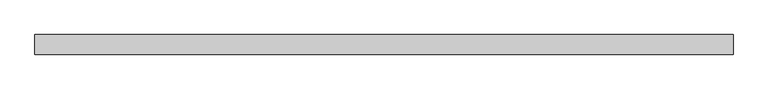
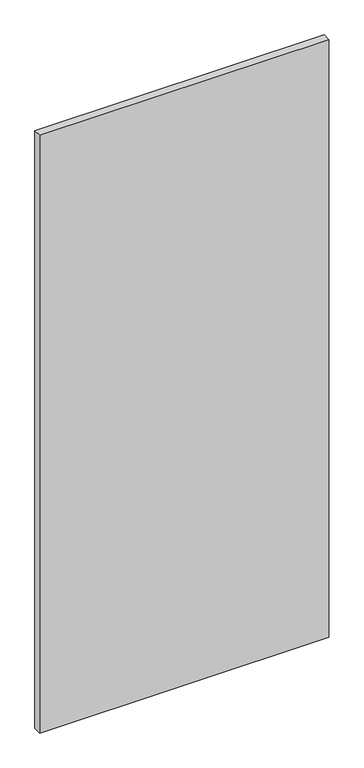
"""IFC4 building model written with IfcOpenShell, lengths in millimetres: plate geometry, Vitré."""

from ifc_helpers import new_model, si_unit, origin, origin_with_axes, place, context, project, spatial, polyline, outline, extrude, source, transform, mapped, element, save


def plate_04ed81d1(model_context):
    return source(origin(), model_context, "Body", "SweptSolid", [
        extrude(outline(polyline([(-696.3124842, -20.0), (-696.3124842, 20.0), (696.3124842, 20.0), (696.3124842, -20.0), (-696.3124842, -20.0)])), origin_with_axes(), (0.0, 0.0, 1.0), 3042.625),
    ])


if __name__ == "__main__":
    model = new_model("IFC4")
    model_context = context("Model", 3, world=origin())
    ifc_project = project(units=[si_unit("LENGTHUNIT", "METRE", prefix="MILLI")], contexts=[model_context])
    site = spatial("IfcSite", under=ifc_project)
    building = spatial("IfcBuilding", under=site)
    placement = place(None, origin())
    plate_shape = plate_04ed81d1(model_context)
    element("IfcPlate", 1, ObjectType="Vitré", at=placement, inside=building, context=model_context, shape_type="MappedRepresentation", body=[
        mapped(plate_shape, transform((0.0, 0.0, 0.0), x_axis=(1.0, 0.0, 0.0), y_axis=(0.0, 1.0, 0.0), z_axis=(0.0, 0.0, 1.0))),
    ])
    save(model, "model.ifc")
